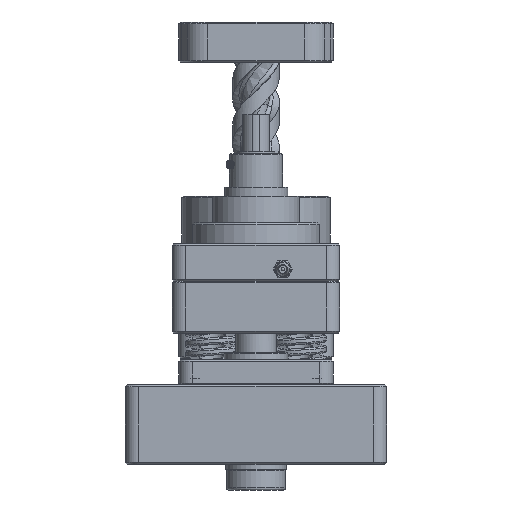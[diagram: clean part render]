
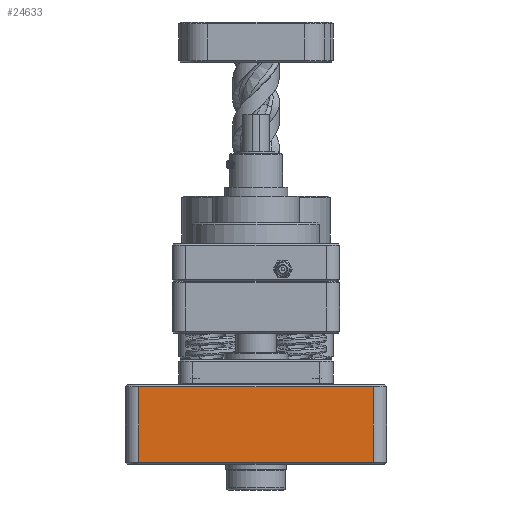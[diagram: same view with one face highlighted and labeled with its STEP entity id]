
A CAD part, left-side view. The second image highlights one B-rep face of the part: STEP entity #24633.
In plain terms, the highlighted planar face has unit normal (-1, 0, 0) as drawn and (1, 0, 0) by its records, which use the part's own axes.
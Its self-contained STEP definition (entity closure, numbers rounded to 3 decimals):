
#1744=LINE('',#67433,#2728);
#1758=LINE('',#67588,#2742);
#1759=LINE('',#67590,#2743);
#1767=LINE('',#67632,#2751);
#2728=VECTOR('',#30760,1000.);
#2742=VECTOR('',#30944,1000.);
#2743=VECTOR('',#30947,1000.);
#2751=VECTOR('',#31001,1000.);
#3316=PLANE('',#26563);
#7008=ORIENTED_EDGE('',*,*,#9950,.T.);
#7009=ORIENTED_EDGE('',*,*,#9888,.F.);
#7010=ORIENTED_EDGE('',*,*,#9951,.F.);
#7011=ORIENTED_EDGE('',*,*,#9970,.T.);
#9888=EDGE_CURVE('',#11813,#11812,#1744,.T.);
#9950=EDGE_CURVE('',#11837,#11812,#1758,.T.);
#9951=EDGE_CURVE('',#11830,#11813,#1759,.T.);
#9970=EDGE_CURVE('',#11830,#11837,#1767,.T.);
#11812=VERTEX_POINT('',#67422);
#11813=VERTEX_POINT('',#67427);
#11830=VERTEX_POINT('',#67474);
#11837=VERTEX_POINT('',#67491);
#14734=EDGE_LOOP('',(#7008,#7009,#7010,#7011));
#16628=FACE_BOUND('',#14734,.T.);
#24633=ADVANCED_FACE('',(#16628),#3316,.F.);
#26563=AXIS2_PLACEMENT_3D('',#67631,#30999,#31000);
#30760=DIRECTION('',(0.,-1.,0.));
#30944=DIRECTION('',(0.,0.,-1.));
#30947=DIRECTION('',(0.,0.,-1.));
#30999=DIRECTION('',(-1.,0.,0.));
#31000=DIRECTION('',(0.,0.,1.));
#31001=DIRECTION('',(0.,-1.,0.));
#67422=CARTESIAN_POINT('',(26.988,-55.563,0.762));
#67427=CARTESIAN_POINT('',(26.988,55.563,0.762));
#67433=CARTESIAN_POINT('',(26.988,-36.513,0.762));
#67474=CARTESIAN_POINT('',(26.988,55.563,36.703));
#67491=CARTESIAN_POINT('',(26.988,-55.563,36.703));
#67588=CARTESIAN_POINT('',(26.988,-55.563,12.065));
#67590=CARTESIAN_POINT('',(26.988,55.563,12.065));
#67631=CARTESIAN_POINT('',(26.988,-36.513,12.065));
#67632=CARTESIAN_POINT('',(26.988,0.,36.703));
